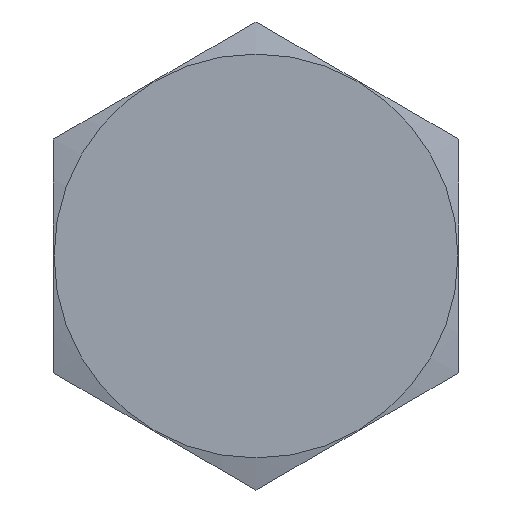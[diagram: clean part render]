
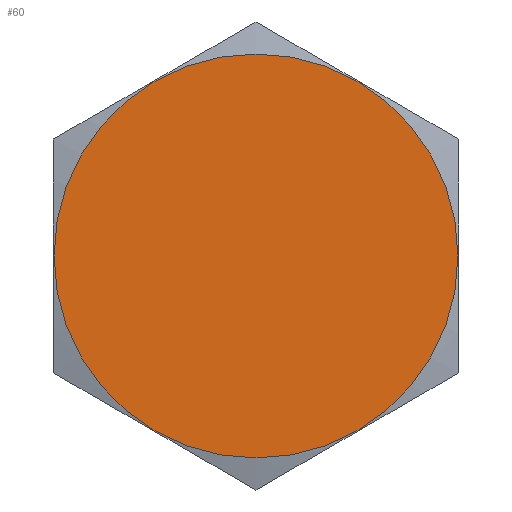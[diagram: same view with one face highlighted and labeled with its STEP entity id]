
A CAD part, left-side view. The second image highlights one B-rep face of the part: STEP entity #60.
In plain terms, the highlighted planar face has unit normal (-1, 0, 0).
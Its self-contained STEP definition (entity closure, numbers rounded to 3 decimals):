
#60 = ADVANCED_FACE( '', ( #133 ), #134, .T. );
#133 = FACE_OUTER_BOUND( '', #220, .T. );
#134 = PLANE( '', #221 );
#220 = EDGE_LOOP( '', ( #326 ) );
#221 = AXIS2_PLACEMENT_3D( '', #327, #328, #329 );
#326 = ORIENTED_EDGE( '', *, *, #453, .T. );
#327 = CARTESIAN_POINT( '', ( -39., -27.5, -15.877 ) );
#328 = DIRECTION( '', ( -1., 0., 0. ) );
#329 = DIRECTION( '', ( 0., -1., 0. ) );
#453 = EDGE_CURVE( '', #524, #524, #525, .T. );
#524 = VERTEX_POINT( '', #674 );
#525 = CIRCLE( '', #675, 27.404 );
#674 = CARTESIAN_POINT( '', ( -39., 0., 27.404 ) );
#675 = AXIS2_PLACEMENT_3D( '', #773, #774, #775 );
#773 = CARTESIAN_POINT( '', ( -39., 0., 0. ) );
#774 = DIRECTION( '', ( -1., 0., 0. ) );
#775 = DIRECTION( '', ( 0., 0., 1. ) );
